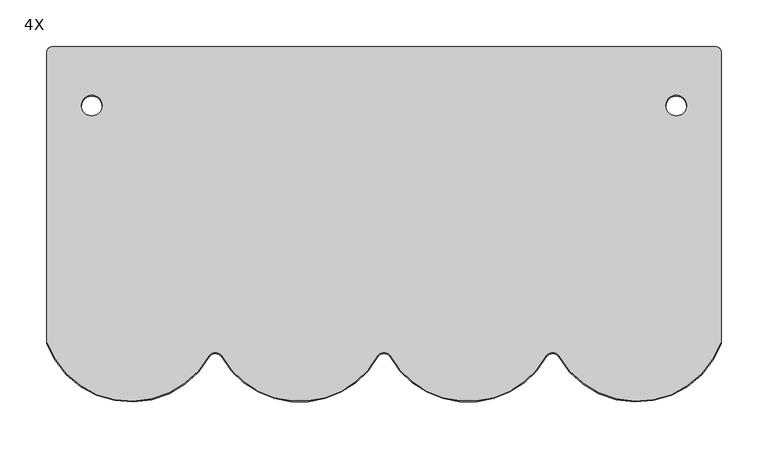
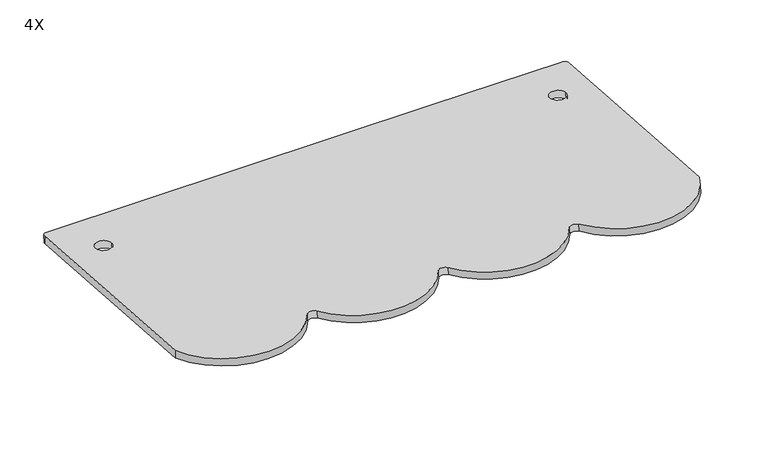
"""IFC4 building model written with IfcOpenShell, lengths in millimetres: proxy geometry, ML PhotonRoof Beaver Anthracite Premium : 4X."""

from ifc_helpers import new_model, si_unit, point, frame, frame_2d, origin, place, context, project, spatial, polyline, circle_curve, trimmed, segment, composite_curve, outline, extrude, source, transform, mapped, element, save


def proxy_4x_7edb7a29(model_context):
    return source(origin(), model_context, "Body", "SweptSolid", [
        extrude(outline(composite_curve([segment(polyline([(180.0, 0.0), (360.0, 0.0)]), True, "CONTINUOUS"), segment(trimmed(circle_curve(frame_2d((360.0, -5.9999999)), 6.0), [point((360.0, 0.0))], [point((366.0, -5.9999999))], False, "CARTESIAN"), True, "CONTINUOUS"), segment(polyline([(366.0, -5.9999999), (366.0, -317.4065861)]), True, "CONTINUOUS"), segment(trimmed(circle_curve(frame_2d((276.0, -284.0)), 96.0), [point((366.0, -317.4065861))], [point((192.5197525, -331.4030407))], False, "CARTESIAN"), True, "CONTINUOUS"), segment(trimmed(circle_curve(frame_2d((186.0, -336.0390765)), 8.0), [point((192.5197525, -331.4030407))], [point((179.4802475, -331.4030407))], True, "CARTESIAN"), True, "CONTINUOUS"), segment(trimmed(circle_curve(frame_2d((96.0, -284.0)), 96.0), [point((179.4802475, -331.4030407))], [point((12.5197525, -331.4030407))], False, "CARTESIAN"), True, "CONTINUOUS"), segment(trimmed(circle_curve(frame_2d((6.0, -336.0390765)), 8.0), [point((12.5197525, -331.4030407))], [point((-0.5197525, -331.4030407))], True, "CARTESIAN"), True, "CONTINUOUS"), segment(trimmed(circle_curve(frame_2d((-84.0, -284.0)), 96.0), [point((-0.5197525, -331.4030407))], [point((-167.4802475, -331.4030407))], False, "CARTESIAN"), True, "CONTINUOUS"), segment(trimmed(circle_curve(frame_2d((-174.0, -336.0390765)), 8.0), [point((-167.4802475, -331.4030407))], [point((-180.5197525, -331.4030407))], True, "CARTESIAN"), True, "CONTINUOUS"), segment(trimmed(circle_curve(frame_2d((-264.0, -284.0)), 96.0), [point((-180.5197525, -331.4030407))], [point((-354.0, -317.4065861))], False, "CARTESIAN"), True, "CONTINUOUS"), segment(polyline([(-354.0, -317.4065861), (-354.0, -5.9999999)]), True, "CONTINUOUS"), segment(trimmed(circle_curve(frame_2d((-348.0, -5.9999999)), 6.0), [point((-354.0, -5.9999999))], [point((-348.0, 0.0))], False, "CARTESIAN"), True, "CONTINUOUS"), segment(polyline([(-348.0, 0.0), (180.0, 0.0)]), True, "CONTINUOUS")], self_intersect=False), holes=[composite_curve([segment(trimmed(circle_curve(frame_2d((318.0, -63.0)), 11.0), [point((329.0, -63.0))], [point((307.0, -63.0))], True, "CARTESIAN"), True, "CONTINUOUS"), segment(trimmed(circle_curve(frame_2d((318.0, -63.0)), 11.0), [point((307.0, -63.0))], [point((329.0, -63.0))], True, "CARTESIAN"), True, "CONTINUOUS")], self_intersect=False), composite_curve([segment(trimmed(circle_curve(frame_2d((-306.0, -63.0)), 11.0), [point((-317.0, -63.0))], [point((-295.0, -63.0))], True, "CARTESIAN"), True, "CONTINUOUS"), segment(trimmed(circle_curve(frame_2d((-306.0, -63.0)), 11.0), [point((-295.0, -63.0))], [point((-317.0, -63.0))], True, "CARTESIAN"), True, "CONTINUOUS")], self_intersect=False)]), frame((264.0, 62.6654192, -4.4472233), z_axis=(0.0, 0.0707897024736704, 0.997491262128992), x_axis=(1.0, 0.0, 0.0)), (0.0, 0.0, 1.0), 10.0),
        extrude(outline(polyline([(65.625, 0.0), (65.625, -23.75), (-13.759513, -23.75), (-13.759513, 0.0), (65.625, 0.0)])), frame((244.0672565, 45.7146537, -17.0859147), z_axis=(0.0, 0.0707897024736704, 0.997491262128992), x_axis=(1.0, 0.0, 0.0)), (0.0, 0.0, 1.0), 13.8069239),
    ])


if __name__ == "__main__":
    model = new_model("IFC4")
    model_context = context("Model", 3, world=origin())
    ifc_project = project(units=[si_unit("LENGTHUNIT", "METRE", prefix="MILLI")], contexts=[model_context])
    site = spatial("IfcSite", under=ifc_project)
    building = spatial("IfcBuilding", under=site)
    placement = place(None, origin())
    proxy_4x_shape = proxy_4x_7edb7a29(model_context)
    element("IfcBuildingElementProxy", 1, Name="ML PhotonRoof Beaver Anthracite Premium : 4X", ObjectType="ML PhotonRoof Beaver Anthracite Premium : 4X", at=placement, inside=building, context=model_context, shape_type="MappedRepresentation", body=[
        mapped(proxy_4x_shape, transform((0.0, 0.0, 0.0), x_axis=(1.0, 0.0, 0.0), y_axis=(0.0, 1.0, 0.0), z_axis=(0.0, 0.0, 1.0))),
    ])
    save(model, "model.ifc")
